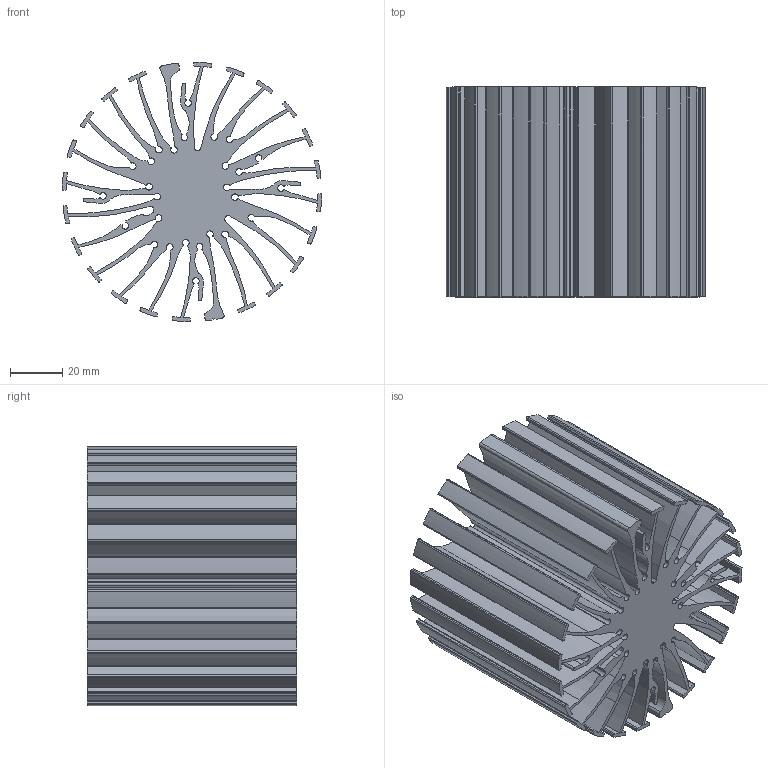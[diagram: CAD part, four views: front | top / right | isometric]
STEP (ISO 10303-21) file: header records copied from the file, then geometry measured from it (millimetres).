
FILE_DESCRIPTION (( 'STEP AP203' ), '1' );
FILE_NAME ('XSA-98-B.STEP', '2014-04-02T06:52:33', ( '' ), ( '' ), 'SwSTEP 2.0', 'SolidWorks 2013', '' );
FILE_SCHEMA (( 'CONFIG_CONTROL_DESIGN' ));
Length unit declared in the file: millimetre
Products named in the file (1): XSA-98-B
Bounding box: 98.98 x 80 x 98.98 mm (x, y, z)
Volume: 221252 mm3; surface area: 161605.4 mm2
Topology: 1 solids, 1 shells, 443 faces, 1323 edges, 882 vertices
Faces by surface type: cylinder 379, plane 64
Entity records: 15828 total; most frequent: CARTESIAN_POINT 3660, ORIENTED_EDGE 2646, DIRECTION 2592, EDGE_CURVE 1323, AXIS2_PLACEMENT_3D 1043, VERTEX_POINT 882, CIRCLE 599, VECTOR 506
